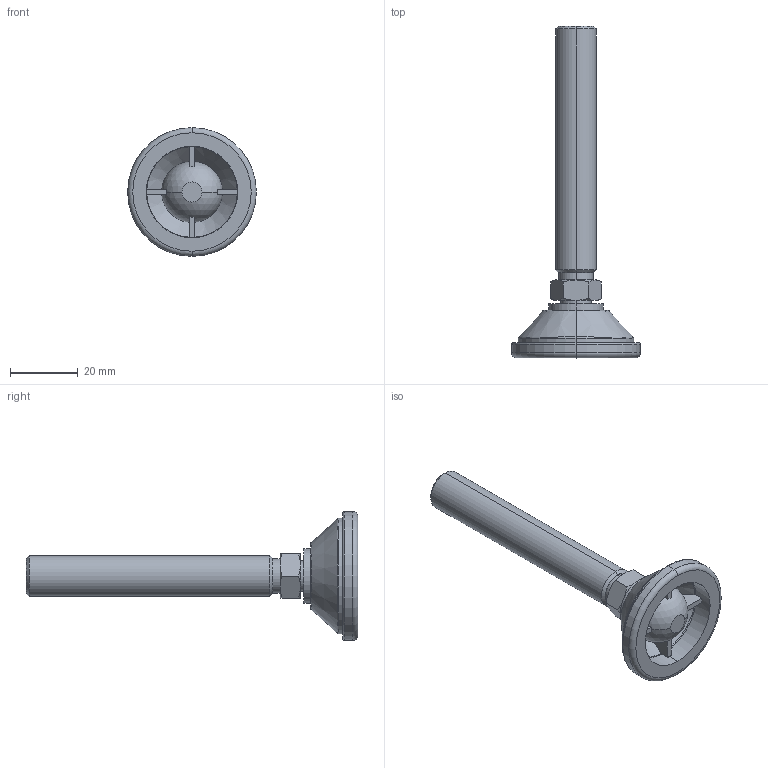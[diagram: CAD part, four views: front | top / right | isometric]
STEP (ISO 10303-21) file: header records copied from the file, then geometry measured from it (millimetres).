
FILE_DESCRIPTION (( 'STEP AP203' ), '1' );
FILE_NAME ('3472.W122.step', '2009-10-21T16:59:59', ( 'Wixroyd' ), ( 'Wixroyd' ), 'SwSTEP 2.0', 'SolidWorks 2009', '' );
FILE_SCHEMA (( 'CONFIG_CONTROL_DESIGN' ));
Length unit declared in the file: millimetre
Products named in the file (3): Part2_3472W122; Part1_3472W122; 3472.W122
Assembly tree (2 placements, depth 2):
  3472.W122
    Part1_3472W122
    Part2_3472W122
Bounding box: 38 x 98 x 38 mm (x, y, z)
Volume: 17399.5 mm3; surface area: 8844.5 mm2
Topology: 2 solids, 2 shells, 83 faces, 202 edges, 126 vertices
Faces by surface type: plane 27, cone 22, cylinder 16, torus 12, sphere 6
Entity records: 2825 total; most frequent: CARTESIAN_POINT 610, DIRECTION 438, ORIENTED_EDGE 386, AXIS2_PLACEMENT_3D 197, EDGE_CURVE 193, VERTEX_POINT 121, CIRCLE 109, EDGE_LOOP 90
